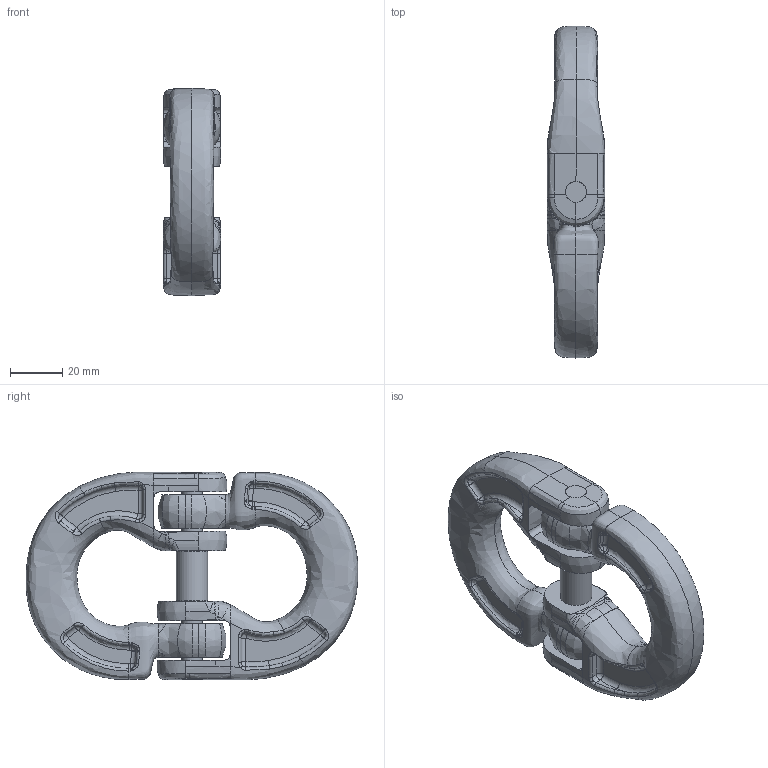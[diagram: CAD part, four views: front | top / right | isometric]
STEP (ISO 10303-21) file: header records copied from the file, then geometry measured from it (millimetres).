
FILE_DESCRIPTION(/* description */ (''),/* implementation_level */ '2;1');
FILE_NAME(/* name */ 'CW 13 Kundenmodell',/* time_stamp */ '2010-01-04T12:55:30+01:00',/* author */ (''),/* organization */ (''),/* preprocessor_version */ 'ST-DEVELOPER v9',/* originating_system */ 'UGS - NX 4.0',/* authorisation */ '');
FILE_SCHEMA (('AUTOMOTIVE_DESIGN { 1 0 10303 214 1 1 1 1 }'));
Length unit declared in the file: millimetre
Products named in the file (1): rit4701pwd6
Bounding box: 22.01 x 127.08 x 79.42 mm (x, y, z)
Volume: 95891.8 mm3; surface area: 30364.5 mm2
Topology: 4 solids, 4 shells, 487 faces, 1240 edges, 751 vertices
Faces by surface type: bspline 282, cylinder 71, plane 58, torus 40, cone 32, sphere 4
Full cylindrical faces by diameter (mm): 8 x8, 12 x1
Entity records: 29955 total; most frequent: CARTESIAN_POINT 20754, ORIENTED_EDGE 2436, EDGE_CURVE 1218, DIRECTION 1152, VERTEX_POINT 746, B_SPLINE_CURVE_WITH_KNOTS 734, EDGE_LOOP 508, AXIS2_PLACEMENT_3D 498
